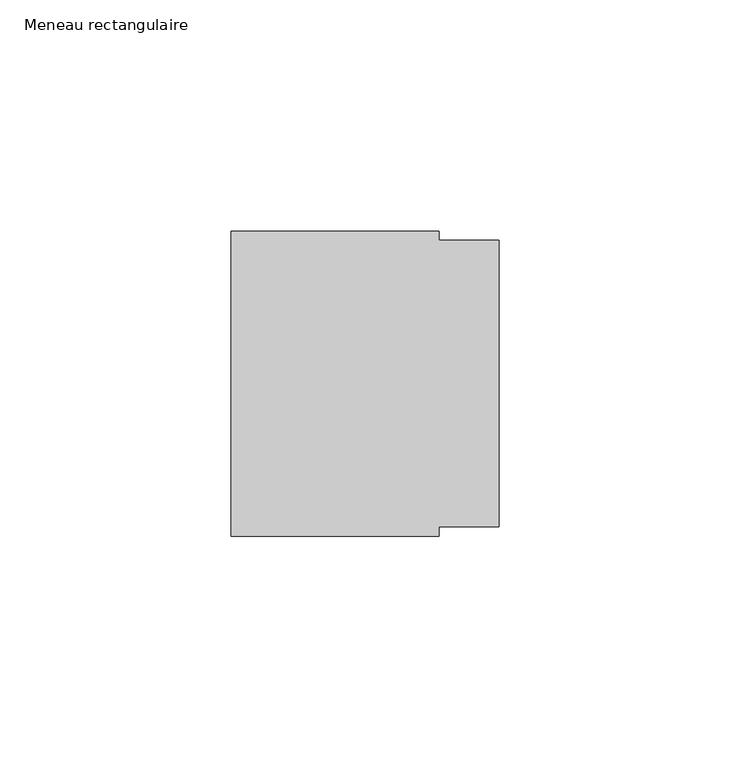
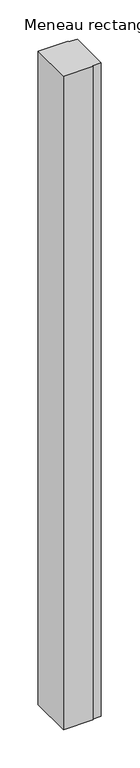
"""IFC4 building model written with IfcOpenShell, lengths in millimetres: member geometry, Meneau rectangulaire : LISSERIE_SOL 85-KLS00-P80-RE58XC."""

import ifcopenshell
import ifcopenshell.guid

model = None  # the IFC model being written
_history = None  # IfcOwnerHistory: only IFC2X3 demands one
_inside = {}  # id of a spatial element -> (the spatial element, [elements in it])
_under = {}  # id of a project, library or spatial element -> (it, [spatial elements below it])
_declared = {}  # id of a project -> (the project, [libraries it declares])
_typed = {}  # id of a type object -> (the type object, [elements of that type])
_made_of = {}  # id of a material, layer set ... -> (it, [elements and type objects made of it])


def new_model(schema):
    """Start an empty IFC model of exactly this schema.

    Asked for "IFC4X3", IfcOpenShell would pick the latest addendum, in which some entities
    have other attributes; the version numbers below select the first issue.
    IFC2X3 requires an IfcOwnerHistory on every rooted entity: one is made here for all.
    """
    global model, _history
    if schema == "IFC4X3":
        model = ifcopenshell.file(schema_version=(4, 3, 0, 0))
    else:
        model = ifcopenshell.file(schema=schema)
    _inside.clear()
    _under.clear()
    _declared.clear()
    _typed.clear()
    _made_of.clear()
    _history = None
    if model.schema == "IFC2X3":
        org = make("IfcOrganization", Name="unknown")
        user = make(
            "IfcPersonAndOrganization",
            ThePerson=make("IfcPerson", FamilyName="unknown"),
            TheOrganization=org,
        )
        app = make(
            "IfcApplication",
            ApplicationDeveloper=org,
            Version="unknown",
            ApplicationFullName="unknown",
            ApplicationIdentifier="unknown",
        )
        _history = make(
            "IfcOwnerHistory",
            OwningUser=user,
            OwningApplication=app,
            ChangeAction="ADDED",
            CreationDate=0,
        )
    return model


def make(cls, **values):
    """One entity of the class cls with the attributes given. An attribute that is None is left unset."""
    return model.create_entity(
        cls, **{name: value for name, value in values.items() if value is not None}
    )


def rooted(cls, **values):
    """An entity with a GlobalId (a new one), such as an element, a storey or a relation."""
    return make(cls, GlobalId=ifcopenshell.guid.new(), OwnerHistory=_history, **values)


def si_unit(unit_type, name, prefix=None):
    """IfcSIUnit, for example si_unit("LENGTHUNIT", "METRE", prefix="MILLI")."""
    return make("IfcSIUnit", UnitType=unit_type, Prefix=prefix, Name=name)


def assignment(units):
    """IfcUnitAssignment: the units of a project."""
    return None if units is None else make("IfcUnitAssignment", Units=units)


def point(xyz):
    """IfcCartesianPoint."""
    return None if xyz is None else make("IfcCartesianPoint", Coordinates=xyz)


def direction(xyz):
    """IfcDirection."""
    return None if xyz is None else make("IfcDirection", DirectionRatios=xyz)


def frame(location, z_axis=None, x_axis=None):
    """IfcAxis2Placement3D, a coordinate frame: its origin and axes. An axis left out is left unset."""
    return make(
        "IfcAxis2Placement3D",
        Location=point(location),
        Axis=direction(z_axis),
        RefDirection=direction(x_axis),
    )


def origin():
    """The frame at (0, 0, 0) with its axes left unset."""
    return frame((0.0, 0.0, 0.0))


def place(relative_to, where):
    """IfcLocalPlacement: puts the frame where relative to a parent placement (None: the world)."""
    return make(
        "IfcLocalPlacement", PlacementRelTo=relative_to, RelativePlacement=where
    )


def context(
    kind, dimensions, precision=None, world=None, true_north=None, identifier=None
):
    """IfcGeometricRepresentationContext, for example the 3D "Model" context."""
    return make(
        "IfcGeometricRepresentationContext",
        ContextIdentifier=identifier,
        ContextType=kind,
        CoordinateSpaceDimension=dimensions,
        Precision=precision,
        WorldCoordinateSystem=world,
        TrueNorth=true_north,
    )


def project(units=None, contexts=None):
    """IfcProject with its units and contexts."""
    return rooted(
        "IfcProject",
        Name="project",
        RepresentationContexts=contexts,
        UnitsInContext=assignment(units),
    )


def spatial(cls, under=None, at=None, **own):
    """A site, building, storey or space (cls), placed at a placement, below another one or the project."""
    s = rooted(cls, ObjectPlacement=at, **own)
    if under is not None:
        _under.setdefault(under.id(), (under, []))[1].append(s)
    return s


def polyline(points):
    """IfcPolyline through the points."""
    return make("IfcPolyline", Points=[point(p) for p in points])


def outline(outer, holes=None, kind="AREA"):
    """IfcArbitraryClosedProfileDef: a profile drawn as a closed curve; with holes, ...WithVoids."""
    if holes is None:
        return make("IfcArbitraryClosedProfileDef", ProfileType=kind, OuterCurve=outer)
    return make(
        "IfcArbitraryProfileDefWithVoids",
        ProfileType=kind,
        OuterCurve=outer,
        InnerCurves=holes,
    )


def extrude(swept, where, along, depth):
    """IfcExtrudedAreaSolid: the profile swept, set in the frame where, extruded along a direction by depth."""
    return make(
        "IfcExtrudedAreaSolid",
        SweptArea=swept,
        Position=where,
        ExtrudedDirection=direction(along),
        Depth=depth,
    )


def shape(context_of_items, identifier, shape_type, items):
    """IfcShapeRepresentation: the items that make up one representation, for example the "Body"."""
    return make(
        "IfcShapeRepresentation",
        ContextOfItems=context_of_items,
        RepresentationIdentifier=identifier,
        RepresentationType=shape_type,
        Items=items,
    )


def source(mapping_origin, context_of_items, identifier, shape_type, items):
    """IfcRepresentationMap: a shape defined once, which mapped items show again and again."""
    return make(
        "IfcRepresentationMap",
        MappingOrigin=mapping_origin,
        MappedRepresentation=shape(context_of_items, identifier, shape_type, items),
    )


def transform(
    local_origin,
    x_axis=None,
    y_axis=None,
    z_axis=None,
    scale=None,
    scale2=None,
    scale3=None,
    uniform=True,
):
    """IfcCartesianTransformationOperator3D, or its non-uniform kind. x_axis, y_axis, z_axis: its Axis1, 2, 3."""
    if uniform:
        return make(
            "IfcCartesianTransformationOperator3D",
            Axis1=direction(x_axis),
            Axis2=direction(y_axis),
            LocalOrigin=point(local_origin),
            Scale=scale,
            Axis3=direction(z_axis),
        )
    return make(
        "IfcCartesianTransformationOperator3DnonUniform",
        Axis1=direction(x_axis),
        Axis2=direction(y_axis),
        LocalOrigin=point(local_origin),
        Scale=scale,
        Axis3=direction(z_axis),
        Scale2=scale2,
        Scale3=scale3,
    )


def mapped(mapping_source, mapping_target):
    """IfcMappedItem: shows the shape of a source again, moved by a transform."""
    return make(
        "IfcMappedItem", MappingSource=mapping_source, MappingTarget=mapping_target
    )


def made_of(thing, what):
    """Note that an element or type object is made of a material, layer set ...; save() writes the relation."""
    if what is not None:
        _made_of.setdefault(what.id(), (what, []))[1].append(thing)
    return thing


def element(
    cls,
    number,
    at=None,
    inside=None,
    cuts=None,
    type_object=None,
    material=None,
    context=None,
    identifier="Body",
    shape_type=None,
    held_by="IfcProductDefinitionShape",
    body=None,
    shapes=None,
    **own,
):
    """One element of the class cls, such as IfcWall. Its Tag is "e" and its number.

    at: its placement. inside: the storey or other place that contains it. cuts: it is an
    opening in that element (IfcRelVoidsElement). A single representation is given by context,
    identifier, shape_type and body (its items); several are given by shapes. held_by: the class
    of the entity that holds the representations. save() writes the other relations.
    """
    e = rooted(cls, Tag="e%d" % number, ObjectPlacement=at, **own)
    if body is not None:
        shapes = [shape(context, identifier, shape_type, body)]
    if shapes is not None:
        e.Representation = make(held_by, Representations=shapes)
    if inside is not None:
        _inside.setdefault(inside.id(), (inside, []))[1].append(e)
    if cuts is not None:
        rooted(
            "IfcRelVoidsElement", RelatingBuildingElement=cuts, RelatedOpeningElement=e
        )
    if type_object is not None:
        _typed.setdefault(type_object.id(), (type_object, []))[1].append(e)
    return made_of(e, material)


def aggregate(whole, parts):
    """IfcRelAggregates: a whole, such as a stair, and the parts it consists of."""
    return rooted("IfcRelAggregates", RelatingObject=whole, RelatedObjects=parts)


def save(model, path):
    """Write the relations noted so far, then the file.

    IfcRelAggregates (storeys below a building ...), IfcRelContainedInSpatialStructure (elements
    in a storey), IfcRelDefinesByType, IfcRelAssociatesMaterial and IfcRelDeclares: one each for
    every whole, place, type object, material and project.
    """
    for whole, parts in _under.values():
        aggregate(whole, parts)
    for where, things in _inside.values():
        rooted(
            "IfcRelContainedInSpatialStructure",
            RelatedElements=things,
            RelatingStructure=where,
        )
    for kind, things in _typed.values():
        rooted("IfcRelDefinesByType", RelatedObjects=things, RelatingType=kind)
    for what, things in _made_of.values():
        rooted("IfcRelAssociatesMaterial", RelatedObjects=things, RelatingMaterial=what)
    for by, libraries in _declared.values():
        rooted("IfcRelDeclares", RelatingContext=by, RelatedDefinitions=libraries)
    model.write(path)


def meneau_rectangulaire_3b15cca5(model_context):
    return source(origin(), model_context, "Body", "SweptSolid", [
        extrude(outline(polyline([(-13.0, 33.0), (-13.0, 31.0), (0.0, 31.0), (0.0, -31.0), (-13.0, -31.0), (-13.0, -33.0), (-58.0, -33.0), (-58.0, 33.0), (-13.0, 33.0)])), frame((0.0, 0.0, -1041.5), z_axis=(0.0, 0.0, 1.0), x_axis=(1.0, 0.0, 0.0)), (0.0, 0.0, 1.0), 1041.5),
    ])


if __name__ == "__main__":
    model = new_model("IFC4")
    model_context = context("Model", 3, world=origin())
    ifc_project = project(units=[si_unit("LENGTHUNIT", "METRE", prefix="MILLI")], contexts=[model_context])
    site = spatial("IfcSite", under=ifc_project)
    building = spatial("IfcBuilding", under=site)
    placement = place(None, origin())
    meneau_rectangulaire_shape = meneau_rectangulaire_3b15cca5(model_context)
    element("IfcMember", 1, ObjectType="Meneau rectangulaire : LISSERIE_SOL 85-KLS00-P80-RE58XC", at=placement, inside=building, context=model_context, shape_type="MappedRepresentation", body=[
        mapped(meneau_rectangulaire_shape, transform((0.0, 0.0, 0.0), x_axis=(1.0, 0.0, 0.0), y_axis=(0.0, 1.0, 0.0), z_axis=(0.0, 0.0, 1.0))),
    ])
    save(model, "model.ifc")
